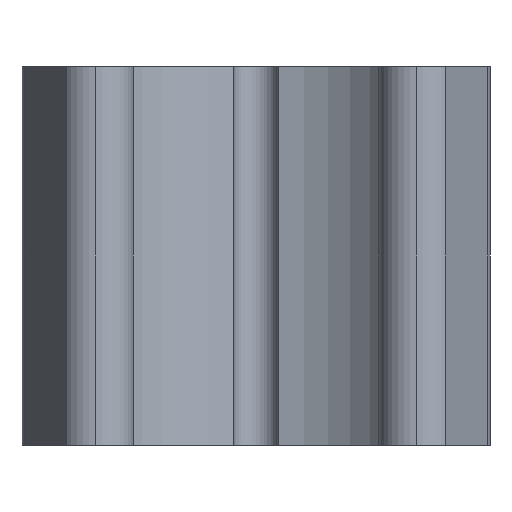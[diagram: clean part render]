
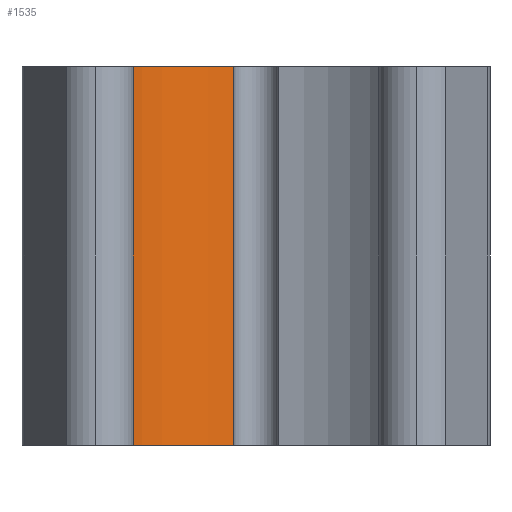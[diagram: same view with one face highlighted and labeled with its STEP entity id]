
A CAD part, left-side view. The second image highlights one B-rep face of the part: STEP entity #1535.
In plain terms, the highlighted cylindrical face has radius 10.75 mm (diameter 21.5 mm), a partial arc.
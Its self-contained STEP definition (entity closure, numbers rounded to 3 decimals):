
#4 = CARTESIAN_POINT ( 'NONE',  ( 10.645, 1.5, 25. ) ) ;
#15 = EDGE_CURVE ( 'NONE', #1636, #2004, #1884, .T. ) ;
#22 = EDGE_CURVE ( 'NONE', #1636, #873, #1942, .T. ) ;
#63 = VERTEX_POINT ( 'NONE', #1720 ) ;
#90 = CARTESIAN_POINT ( 'NONE',  ( 1.784, 10.601, 0. ) ) ;
#243 = VECTOR ( 'NONE', #446, 1000. ) ;
#390 = ORIENTED_EDGE ( 'NONE', *, *, #1368, .T. ) ;
#438 = CARTESIAN_POINT ( 'NONE',  ( 0., 0., 25. ) ) ;
#443 = CARTESIAN_POINT ( 'NONE',  ( 0., 0., 0. ) ) ;
#446 = DIRECTION ( 'NONE',  ( 0., 0., -1. ) ) ;
#556 = AXIS2_PLACEMENT_3D ( 'NONE', #2192, #1126, #2039 ) ;
#592 = CIRCLE ( 'NONE', #1567, 10.75 ) ;
#707 = CARTESIAN_POINT ( 'NONE',  ( 10.645, 1.5, 25. ) ) ;
#788 = DIRECTION ( 'NONE',  ( 0., 0., -1. ) ) ;
#843 = ORIENTED_EDGE ( 'NONE', *, *, #22, .T. ) ;
#873 = VERTEX_POINT ( 'NONE', #90 ) ;
#1124 = FACE_OUTER_BOUND ( 'NONE', #1660, .T. ) ;
#1126 = DIRECTION ( 'NONE',  ( 0., 0., -1. ) ) ;
#1193 = ORIENTED_EDGE ( 'NONE', *, *, #1738, .F. ) ;
#1221 = ORIENTED_EDGE ( 'NONE', *, *, #15, .F. ) ;
#1354 = AXIS2_PLACEMENT_3D ( 'NONE', #438, #788, #2000 ) ;
#1368 = EDGE_CURVE ( 'NONE', #873, #63, #592, .T. ) ;
#1488 = CARTESIAN_POINT ( 'NONE',  ( 1.784, 10.601, 25. ) ) ;
#1512 = DIRECTION ( 'NONE',  ( 0., 0., -1. ) ) ;
#1535 = ADVANCED_FACE ( 'NONE', ( #1124 ), #1747, .F. ) ;
#1567 = AXIS2_PLACEMENT_3D ( 'NONE', #443, #1512, #2237 ) ;
#1636 = VERTEX_POINT ( 'NONE', #1902 ) ;
#1660 = EDGE_LOOP ( 'NONE', ( #390, #1193, #1221, #843 ) ) ;
#1679 = LINE ( 'NONE', #4, #2108 ) ;
#1720 = CARTESIAN_POINT ( 'NONE',  ( 10.645, 1.5, 0. ) ) ;
#1738 = EDGE_CURVE ( 'NONE', #2004, #63, #1679, .T. ) ;
#1747 = CYLINDRICAL_SURFACE ( 'NONE', #1354, 10.75 ) ;
#1884 = CIRCLE ( 'NONE', #556, 10.75 ) ;
#1902 = CARTESIAN_POINT ( 'NONE',  ( 1.784, 10.601, 25. ) ) ;
#1942 = LINE ( 'NONE', #1488, #243 ) ;
#1949 = DIRECTION ( 'NONE',  ( 0., 0., -1. ) ) ;
#2000 = DIRECTION ( 'NONE',  ( -1., 0., 0. ) ) ;
#2004 = VERTEX_POINT ( 'NONE', #707 ) ;
#2039 = DIRECTION ( 'NONE',  ( -1., 0., 0. ) ) ;
#2108 = VECTOR ( 'NONE', #1949, 1000. ) ;
#2192 = CARTESIAN_POINT ( 'NONE',  ( 0., 0., 25. ) ) ;
#2237 = DIRECTION ( 'NONE',  ( -1., 0., 0. ) ) ;
